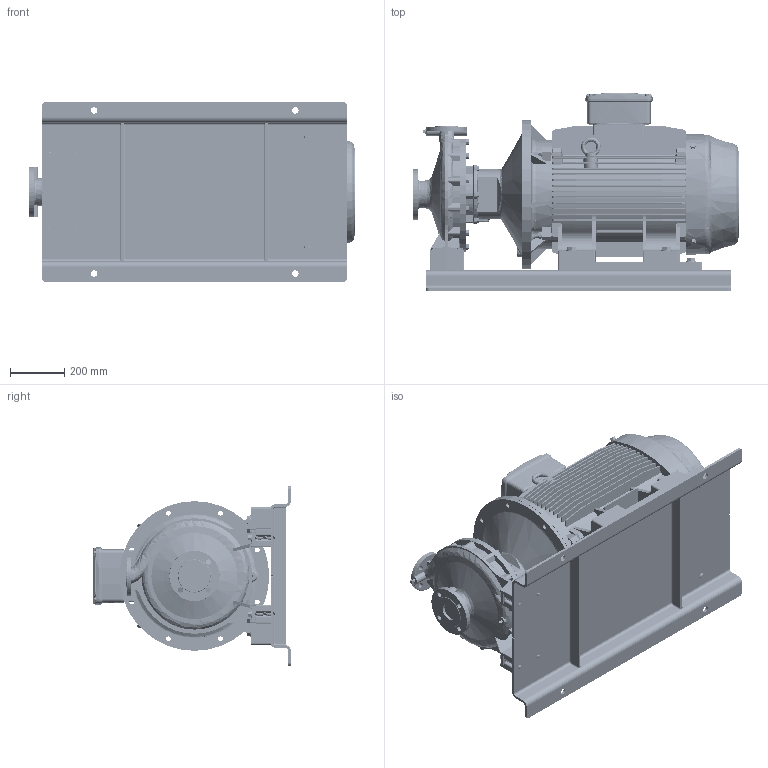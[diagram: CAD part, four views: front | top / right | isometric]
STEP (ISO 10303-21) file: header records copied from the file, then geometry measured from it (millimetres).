
FILE_DESCRIPTION (( 'STEP AP214' ), '1' );
FILE_NAME ('GSD2 40-315_55_(250SM)_W21_BP.STEP', '2024-04-26T03:48:01', ( '' ), ( '' ), 'SwSTEP 2.0', 'SolidWorks 2019', '' );
FILE_SCHEMA (( 'AUTOMOTIVE_DESIGN' ));
Length unit declared in the file: millimetre
Products named in the file (17): Parametric bolt and washer_SFT-A417B; 100x30 - CGSDA-5291; Parametric Stud Bolt_SFSK-AB305; CGS11-5311_2_3_4_5_CGS11-5312; 40-315-250S_M; A407B Bolt_407; GSD2  40-315_55_(250SM)_W21_BP; Parametric Nut_M12; Parametric bolt_SFT-A417B; 250S_M2P IE3_W21T_B35; CGS11-5311_2_3_4_5_CGS11-5314; Parametric Flat Washer_M20; Parametric Flat Washer_M12; N8S3 GSDA-834 F1-1832958-00
Assembly tree (37 placements, depth 3):
  GSD2  40-315_55_(250SM)_W21_BP
    40-315-250S_M
    250S_M2P IE3_W21T_B35
    CGS11-5311_2_3_4_5_CGS11-5312  x2
    CGS11-5311_2_3_4_5_CGS11-5314  x2
    N8S3 GSDA-834 F1-1832958-00
    100x30 - CGSDA-5291  x2
    Parametric Stud Bolt_SFSK-AB305  x4
    Parametric Flat Washer_M12  x4
    Parametric Nut_M12  x4
    A407B Bolt_407  x2
    Parametric Flat Washer_M20  x2
    Parametric bolt and washer_SFT-A417B
      Parametric bolt_SFT-A417B
      Parametric Flat Washer_M20
    Parametric bolt and washer_SFT-A417B
      Parametric bolt_SFT-A417B
      Parametric Flat Washer_M20
    Parametric bolt and washer_SFT-A417B
      Parametric bolt_SFT-A417B
      Parametric Flat Washer_M20
    Parametric bolt and washer_SFT-A417B
      Parametric bolt_SFT-A417B
      Parametric Flat Washer_M20
Bounding box: 1200.5 x 728 x 660 mm (x, y, z)
Volume: 149531431.1 mm3; surface area: 7389269.9 mm2
Topology: 50 solids, 55 shells, 4943 faces, 13232 edges, 8516 vertices
Faces by surface type: cylinder 1892, plane 1848, cone 563, torus 317, bspline 307, sphere 16
Entity records: 195396 total; most frequent: CARTESIAN_POINT 83439, ORIENTED_EDGE 21720, DIRECTION 19392, EDGE_CURVE 10860, AXIS2_PLACEMENT_3D 7102, VERTEX_POINT 6980, LINE 5188, VECTOR 5188
